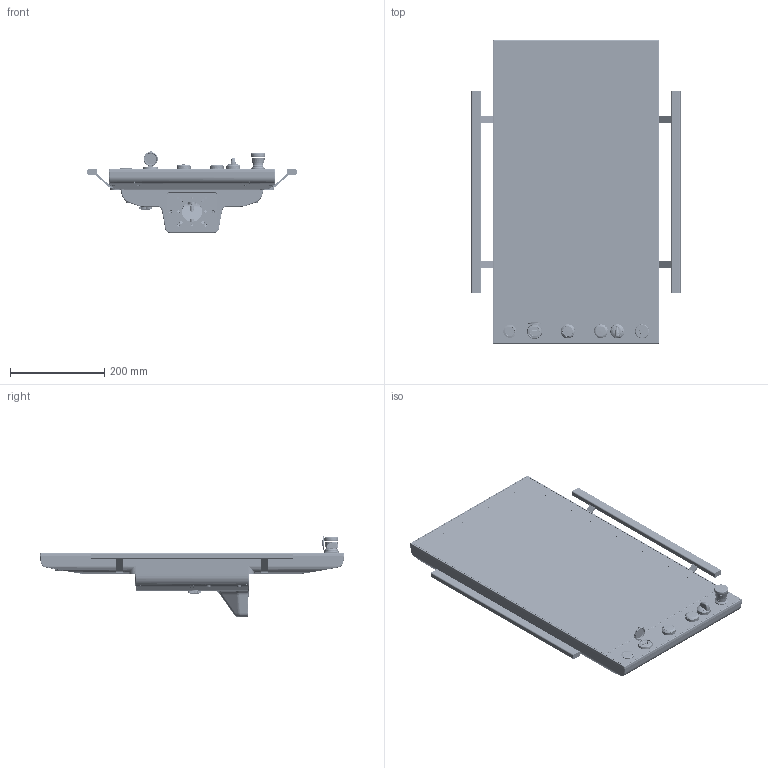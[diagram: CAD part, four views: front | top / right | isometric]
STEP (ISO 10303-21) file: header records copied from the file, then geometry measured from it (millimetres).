
FILE_DESCRIPTION (( 'STEP AP214' ), '1' );
FILE_NAME ('DIMA VK3500P-BA 24.0 BOTTOM ARM CON MANIGLIE.STEP', '2021-09-14T10:04:18', ( '' ), ( '' ), 'SwSTEP 2.0', 'SolidWorks 2021', '' );
FILE_SCHEMA (( 'AUTOMOTIVE_DESIGN' ));
Length unit declared in the file: millimetre
Products named in the file (33): 57342391; 57836084; 66811015; DIMA VK3500P-BA 24.0 BOTTOM ARM CON MANIGLIE; 69111035; 26020043; 26020033; 56236074; 55688019; 56600724; 69111017; 56636969; 57836083_Default<A macchina>; 26020037; 56600719; 58755015; 56202011; 93657770; 60290002; 56600718; 69111016; 21507074; 55600023; 69111032; 48000080; 56636972_Default<A macchina>; 26140000; 58755018; 50342043; 26020035; 55455178; kit_posteriore_arm_usb3; 56202012
Assembly tree (56 placements, depth 4):
  DIMA VK3500P-BA 24.0 BOTTOM ARM CON MANIGLIE
    56600719
      56600718
        56636969
        50342043
        55455178
      55600023
        55688019
        48000080
        21507074
    56600724
      56636972_Default<A macchina>
      57342391
    57836084
      57836083_Default<A macchina>
    kit_posteriore_arm_usb3
    60290002  x6
    69111032  x2
    58755018  x2
    56236074  x2
    56202012  x4
      56202011
    66811015  x8
    69111035  x4
    69111017  x2
    69111016  x2
    58755015  x2
    26020037
    26020033
    26020035
    26140000
    26020043
    93657770
Bounding box: 442.9 x 643.85 x 174.69 mm (x, y, z)
Volume: 2020381 mm3; surface area: 1837967.5 mm2
Topology: 95 solids, 193 shells, 9914 faces, 26377 edges, 16819 vertices
Faces by surface type: plane 4466, cylinder 2766, cone 1298, bspline 962, torus 320, sphere 102
Entity records: 443350 total; most frequent: CARTESIAN_POINT 171724, ORIENTED_EDGE 47735, DIRECTION 41821, EDGE_CURVE 24468, VERTEX_POINT 15684, AXIS2_PLACEMENT_3D 14899, VECTOR 12023, LINE 12023
